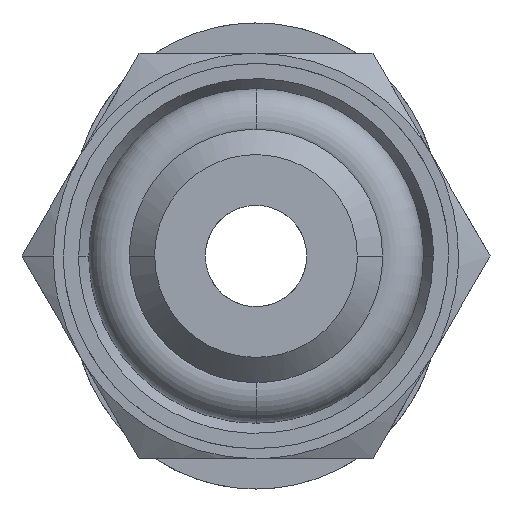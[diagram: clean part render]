
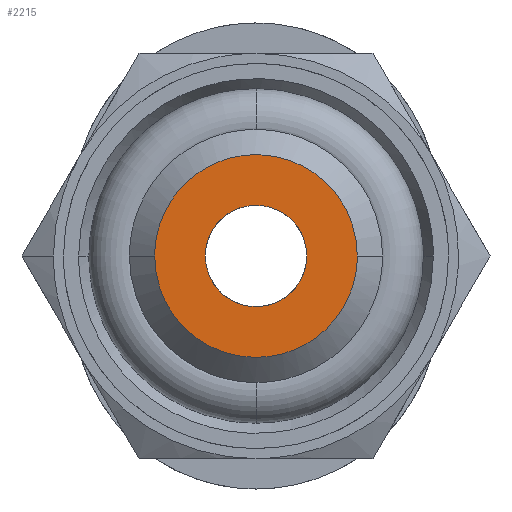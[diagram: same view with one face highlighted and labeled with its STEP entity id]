
A CAD part, front view. The second image highlights one B-rep face of the part: STEP entity #2215.
In plain terms, the highlighted planar face has unit normal (0, -1, 0).
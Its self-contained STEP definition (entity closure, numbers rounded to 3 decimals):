
#45 = FACE_BOUND ( 'NONE', #3965, .T. ) ;
#82 = CARTESIAN_POINT ( 'NONE',  ( 1., 0., 0. ) ) ;
#103 = EDGE_LOOP ( 'NONE', ( #3635, #3218 ) ) ;
#117 = AXIS2_PLACEMENT_3D ( 'NONE', #2859, #1779, #3582 ) ;
#207 = CARTESIAN_POINT ( 'NONE',  ( 1.601, 0., 1.227 ) ) ;
#262 = CARTESIAN_POINT ( 'NONE',  ( 0.26, 0., 0.974 ) ) ;
#268 = CARTESIAN_POINT ( 'NONE',  ( 1., 0., 0. ) ) ;
#357 = B_SPLINE_CURVE_WITH_KNOTS ( 'NONE', 3,
 ( #544, #1317, #2691, #1587, #207, #4325, #901, #1246, #1293, #2283, #3665, #3007, #2665, #3324, #1909, #2984, #925, #4050 ),
 .UNSPECIFIED., .F., .F.,
 ( 4, 2, 2, 2, 2, 2, 2, 2, 4 ),
 ( 0.5, 0.563, 0.625, 0.688, 0.75, 0.813, 0.875, 0.937, 1. ),
 .UNSPECIFIED. ) ;
#393 = VERTEX_POINT ( 'NONE', #3333 ) ;
#544 = CARTESIAN_POINT ( 'NONE',  ( 2., 0., 0. ) ) ;
#600 = CARTESIAN_POINT ( 'NONE',  ( 0.975, 0., 0.261 ) ) ;
#637 = CARTESIAN_POINT ( 'NONE',  ( -0.265, 0., -2. ) ) ;
#669 = CARTESIAN_POINT ( 'NONE',  ( -0.505, 0., 0.873 ) ) ;
#692 = CARTESIAN_POINT ( 'NONE',  ( 0.974, 0., -0.26 ) ) ;
#711 = CARTESIAN_POINT ( 'NONE',  ( 0.505, 0., -0.873 ) ) ;
#750 = EDGE_CURVE ( 'NONE', #3086, #393, #3819, .T. ) ;
#757 = CARTESIAN_POINT ( 'NONE',  ( -0.975, 0., -0.26 ) ) ;
#779 = CARTESIAN_POINT ( 'NONE',  ( -0.801, 0., -0.614 ) ) ;
#901 = CARTESIAN_POINT ( 'NONE',  ( 1.01, 0., 1.746 ) ) ;
#925 = CARTESIAN_POINT ( 'NONE',  ( -2., 0., 0.265 ) ) ;
#939 = CARTESIAN_POINT ( 'NONE',  ( -0.132, 0., 1. ) ) ;
#956 = CARTESIAN_POINT ( 'NONE',  ( -1.01, 0., -1.746 ) ) ;
#1037 = CARTESIAN_POINT ( 'NONE',  ( -1., 0., 0. ) ) ;
#1047 = CARTESIAN_POINT ( 'NONE',  ( -1.227, 0., -1.602 ) ) ;
#1078 = CARTESIAN_POINT ( 'NONE',  ( 0.801, 0., -0.614 ) ) ;
#1246 = CARTESIAN_POINT ( 'NONE',  ( 0.521, 0., 1.949 ) ) ;
#1293 = CARTESIAN_POINT ( 'NONE',  ( 0.265, 0., 2. ) ) ;
#1317 = CARTESIAN_POINT ( 'NONE',  ( 2., 0., 0.265 ) ) ;
#1323 = CARTESIAN_POINT ( 'NONE',  ( -2., 0., -0.265 ) ) ;
#1347 = CARTESIAN_POINT ( 'NONE',  ( 1.949, 0., -0.521 ) ) ;
#1353 = CARTESIAN_POINT ( 'NONE',  ( -0.873, 0., 0.505 ) ) ;
#1376 = CARTESIAN_POINT ( 'NONE',  ( 0.505, 0., 0.873 ) ) ;
#1417 = CARTESIAN_POINT ( 'NONE',  ( -0.505, 0., -0.873 ) ) ;
#1487 = VERTEX_POINT ( 'NONE', #268 ) ;
#1587 = CARTESIAN_POINT ( 'NONE',  ( 1.746, 0., 1.01 ) ) ;
#1625 = CARTESIAN_POINT ( 'NONE',  ( -0.974, 0., 0.26 ) ) ;
#1711 = CARTESIAN_POINT ( 'NONE',  ( 0.521, 0., -1.949 ) ) ;
#1763 = CARTESIAN_POINT ( 'NONE',  ( -1., 0., -0.133 ) ) ;
#1779 = DIRECTION ( 'NONE',  ( 0., -1., 0. ) ) ;
#1806 = CARTESIAN_POINT ( 'NONE',  ( 0.873, 0., -0.505 ) ) ;
#1909 = CARTESIAN_POINT ( 'NONE',  ( -1.746, 0., 1.01 ) ) ;
#2022 = CARTESIAN_POINT ( 'NONE',  ( 1.01, 0., -1.746 ) ) ;
#2046 = CARTESIAN_POINT ( 'NONE',  ( 2., 0., 0. ) ) ;
#2053 = CARTESIAN_POINT ( 'NONE',  ( -0.261, 0., 0.975 ) ) ;
#2067 = ORIENTED_EDGE ( 'NONE', *, *, #3477, .T. ) ;
#2098 = CARTESIAN_POINT ( 'NONE',  ( 0.132, 0., -1. ) ) ;
#2122 = CARTESIAN_POINT ( 'NONE',  ( -2., 0., 0. ) ) ;
#2139 = CARTESIAN_POINT ( 'NONE',  ( 0.614, 0., -0.801 ) ) ;
#2215 = ADVANCED_FACE ( 'NONE', ( #45, #2537 ), #3920, .T. ) ;
#2283 = CARTESIAN_POINT ( 'NONE',  ( -0.265, 0., 2. ) ) ;
#2326 = B_SPLINE_CURVE_WITH_KNOTS ( 'NONE', 3,
 ( #3406, #2387, #1625, #1353, #3699, #3765, #669, #2053, #939, #2750, #262, #1376, #4482, #4382, #3742, #600, #3070, #3430 ),
 .UNSPECIFIED., .F., .F.,
 ( 4, 2, 2, 2, 2, 2, 2, 2, 4 ),
 ( 0., 0.063, 0.125, 0.188, 0.25, 0.313, 0.375, 0.438, 0.5 ),
 .UNSPECIFIED. ) ;
#2387 = CARTESIAN_POINT ( 'NONE',  ( -1., 0., 0.132 ) ) ;
#2472 = CARTESIAN_POINT ( 'NONE',  ( -0.614, 0., -0.801 ) ) ;
#2537 = FACE_OUTER_BOUND ( 'NONE', #103, .T. ) ;
#2665 = CARTESIAN_POINT ( 'NONE',  ( -1.227, 0., 1.601 ) ) ;
#2673 = CARTESIAN_POINT ( 'NONE',  ( -1.949, 0., -0.521 ) ) ;
#2691 = CARTESIAN_POINT ( 'NONE',  ( 1.949, 0., 0.521 ) ) ;
#2697 = CARTESIAN_POINT ( 'NONE',  ( 0.265, 0., -2. ) ) ;
#2716 = CARTESIAN_POINT ( 'NONE',  ( 2., 0., -0.265 ) ) ;
#2750 = CARTESIAN_POINT ( 'NONE',  ( 0.132, 0., 1. ) ) ;
#2765 = CARTESIAN_POINT ( 'NONE',  ( -1.746, 0., -1.01 ) ) ;
#2791 = CARTESIAN_POINT ( 'NONE',  ( -0.873, 0., -0.505 ) ) ;
#2813 = CARTESIAN_POINT ( 'NONE',  ( -0.26, 0., -0.974 ) ) ;
#2839 = B_SPLINE_CURVE_WITH_KNOTS ( 'NONE', 3,
 ( #82, #3852, #692, #1806, #1078, #2139, #711, #3180, #2098, #3473, #2813, #1417, #2472, #779, #2791, #757, #1763, #2862 ),
 .UNSPECIFIED., .F., .F.,
 ( 4, 2, 2, 2, 2, 2, 2, 2, 4 ),
 ( 0.5, 0.563, 0.625, 0.688, 0.75, 0.813, 0.875, 0.938, 1. ),
 .UNSPECIFIED. ) ;
#2859 = CARTESIAN_POINT ( 'NONE',  ( -1., 0., 0. ) ) ;
#2862 = CARTESIAN_POINT ( 'NONE',  ( -1., 0., 0. ) ) ;
#2984 = CARTESIAN_POINT ( 'NONE',  ( -1.949, 0., 0.521 ) ) ;
#3007 = CARTESIAN_POINT ( 'NONE',  ( -1.01, 0., 1.746 ) ) ;
#3070 = CARTESIAN_POINT ( 'NONE',  ( 1., 0., 0.132 ) ) ;
#3086 = VERTEX_POINT ( 'NONE', #2122 ) ;
#3180 = CARTESIAN_POINT ( 'NONE',  ( 0.261, 0., -0.975 ) ) ;
#3218 = ORIENTED_EDGE ( 'NONE', *, *, #4076, .T. ) ;
#3324 = CARTESIAN_POINT ( 'NONE',  ( -1.602, 0., 1.227 ) ) ;
#3333 = CARTESIAN_POINT ( 'NONE',  ( 2., 0., 0. ) ) ;
#3354 = CARTESIAN_POINT ( 'NONE',  ( -2., 0., 0. ) ) ;
#3394 = EDGE_CURVE ( 'NONE', #3690, #1487, #2326, .T. ) ;
#3399 = CARTESIAN_POINT ( 'NONE',  ( 1.602, 0., -1.227 ) ) ;
#3406 = CARTESIAN_POINT ( 'NONE',  ( -1., 0., 0. ) ) ;
#3422 = CARTESIAN_POINT ( 'NONE',  ( -0.521, 0., -1.949 ) ) ;
#3430 = CARTESIAN_POINT ( 'NONE',  ( 1., 0., 0. ) ) ;
#3473 = CARTESIAN_POINT ( 'NONE',  ( -0.132, 0., -1. ) ) ;
#3477 = EDGE_CURVE ( 'NONE', #1487, #3690, #2839, .T. ) ;
#3582 = DIRECTION ( 'NONE',  ( 0., 0., -1. ) ) ;
#3635 = ORIENTED_EDGE ( 'NONE', *, *, #750, .T. ) ;
#3665 = CARTESIAN_POINT ( 'NONE',  ( -0.521, 0., 1.949 ) ) ;
#3690 = VERTEX_POINT ( 'NONE', #1037 ) ;
#3699 = CARTESIAN_POINT ( 'NONE',  ( -0.801, 0., 0.614 ) ) ;
#3742 = CARTESIAN_POINT ( 'NONE',  ( 0.873, 0., 0.505 ) ) ;
#3765 = CARTESIAN_POINT ( 'NONE',  ( -0.614, 0., 0.801 ) ) ;
#3819 = B_SPLINE_CURVE_WITH_KNOTS ( 'NONE', 3,
 ( #3354, #1323, #2673, #2765, #4057, #1047, #956, #3422, #637, #2697, #1711, #2022, #4451, #3399, #4474, #1347, #2716, #2046 ),
 .UNSPECIFIED., .F., .F.,
 ( 4, 2, 2, 2, 2, 2, 2, 2, 4 ),
 ( 0., 0.063, 0.125, 0.188, 0.25, 0.313, 0.375, 0.438, 0.5 ),
 .UNSPECIFIED. ) ;
#3852 = CARTESIAN_POINT ( 'NONE',  ( 1., 0., -0.132 ) ) ;
#3918 = ORIENTED_EDGE ( 'NONE', *, *, #3394, .T. ) ;
#3920 = PLANE ( 'NONE',  #117 ) ;
#3965 = EDGE_LOOP ( 'NONE', ( #3918, #2067 ) ) ;
#4050 = CARTESIAN_POINT ( 'NONE',  ( -2., 0., 0. ) ) ;
#4057 = CARTESIAN_POINT ( 'NONE',  ( -1.601, 0., -1.227 ) ) ;
#4076 = EDGE_CURVE ( 'NONE', #393, #3086, #357, .T. ) ;
#4325 = CARTESIAN_POINT ( 'NONE',  ( 1.227, 0., 1.602 ) ) ;
#4382 = CARTESIAN_POINT ( 'NONE',  ( 0.801, 0., 0.614 ) ) ;
#4451 = CARTESIAN_POINT ( 'NONE',  ( 1.227, 0., -1.601 ) ) ;
#4474 = CARTESIAN_POINT ( 'NONE',  ( 1.746, 0., -1.01 ) ) ;
#4482 = CARTESIAN_POINT ( 'NONE',  ( 0.614, 0., 0.801 ) ) ;
